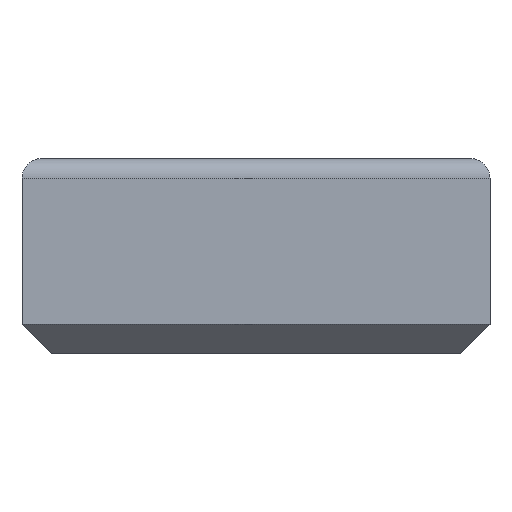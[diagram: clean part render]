
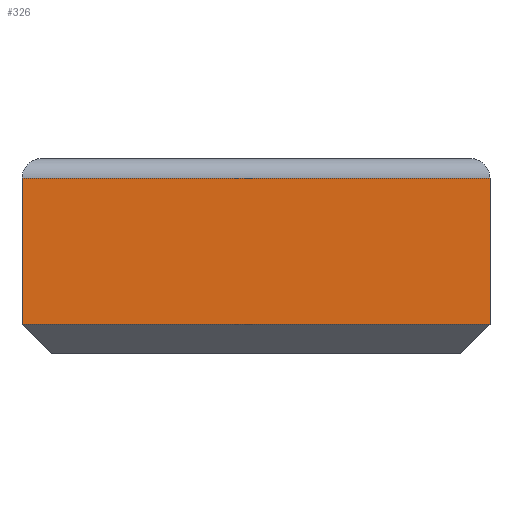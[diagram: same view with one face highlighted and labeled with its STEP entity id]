
A CAD part, front view. The second image highlights one B-rep face of the part: STEP entity #326.
In plain terms, the highlighted planar face has unit normal (0, -1, 0).
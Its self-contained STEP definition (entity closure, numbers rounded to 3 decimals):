
#65 = VECTOR ( 'NONE', #808, 1000. ) ;
#148 = CARTESIAN_POINT ( 'NONE',  ( 0., 0., 0. ) ) ;
#269 = ORIENTED_EDGE ( 'NONE', *, *, #614, .F. ) ;
#291 = CARTESIAN_POINT ( 'NONE',  ( 0., 0., 10.5 ) ) ;
#326 = ADVANCED_FACE ( 'NONE', ( #405 ), #2021, .T. ) ;
#405 = FACE_OUTER_BOUND ( 'NONE', #1604, .T. ) ;
#467 = VERTEX_POINT ( 'NONE', #1016 ) ;
#473 = DIRECTION ( 'NONE',  ( 0., -1., 0. ) ) ;
#614 = EDGE_CURVE ( 'NONE', #2168, #467, #1879, .T. ) ;
#703 = LINE ( 'NONE', #1642, #65 ) ;
#808 = DIRECTION ( 'NONE',  ( 1., 0., 0. ) ) ;
#863 = DIRECTION ( 'NONE',  ( 0., 0., -1. ) ) ;
#999 = ORIENTED_EDGE ( 'NONE', *, *, #2924, .T. ) ;
#1016 = CARTESIAN_POINT ( 'NONE',  ( 0., 0., 18. ) ) ;
#1029 = LINE ( 'NONE', #2775, #2838 ) ;
#1164 = CARTESIAN_POINT ( 'NONE',  ( 48., 0., 10.5 ) ) ;
#1216 = AXIS2_PLACEMENT_3D ( 'NONE', #148, #473, #863 ) ;
#1374 = DIRECTION ( 'NONE',  ( 1., 0., 0. ) ) ;
#1403 = VERTEX_POINT ( 'NONE', #1631 ) ;
#1560 = EDGE_CURVE ( 'NONE', #2168, #1403, #703, .T. ) ;
#1572 = DIRECTION ( 'NONE',  ( 0., 0., 1. ) ) ;
#1604 = EDGE_LOOP ( 'NONE', ( #999, #2093, #269, #2283 ) ) ;
#1631 = CARTESIAN_POINT ( 'NONE',  ( 48., 0., 3. ) ) ;
#1642 = CARTESIAN_POINT ( 'NONE',  ( 24., 0., 3. ) ) ;
#1879 = LINE ( 'NONE', #291, #3070 ) ;
#1911 = VECTOR ( 'NONE', #2807, 1000. ) ;
#1923 = CARTESIAN_POINT ( 'NONE',  ( 0., 0., 3. ) ) ;
#2021 = PLANE ( 'NONE',  #1216 ) ;
#2093 = ORIENTED_EDGE ( 'NONE', *, *, #2888, .F. ) ;
#2168 = VERTEX_POINT ( 'NONE', #1923 ) ;
#2283 = ORIENTED_EDGE ( 'NONE', *, *, #1560, .T. ) ;
#2547 = LINE ( 'NONE', #1164, #1911 ) ;
#2775 = CARTESIAN_POINT ( 'NONE',  ( 24., 0., 18. ) ) ;
#2796 = VERTEX_POINT ( 'NONE', #2990 ) ;
#2807 = DIRECTION ( 'NONE',  ( 0., 0., 1. ) ) ;
#2838 = VECTOR ( 'NONE', #1374, 1000. ) ;
#2888 = EDGE_CURVE ( 'NONE', #467, #2796, #1029, .T. ) ;
#2924 = EDGE_CURVE ( 'NONE', #1403, #2796, #2547, .T. ) ;
#2990 = CARTESIAN_POINT ( 'NONE',  ( 48., 0., 18. ) ) ;
#3070 = VECTOR ( 'NONE', #1572, 1000. ) ;
